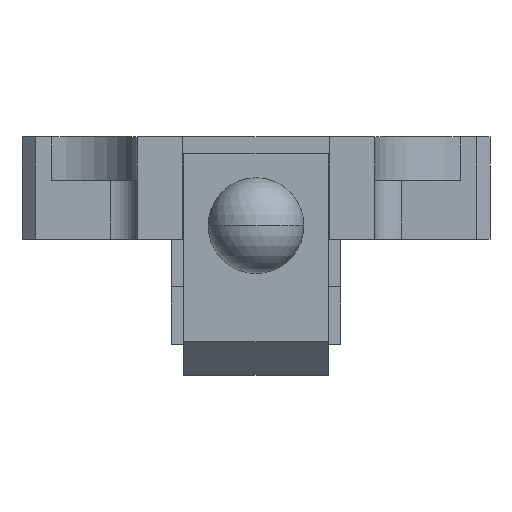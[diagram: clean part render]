
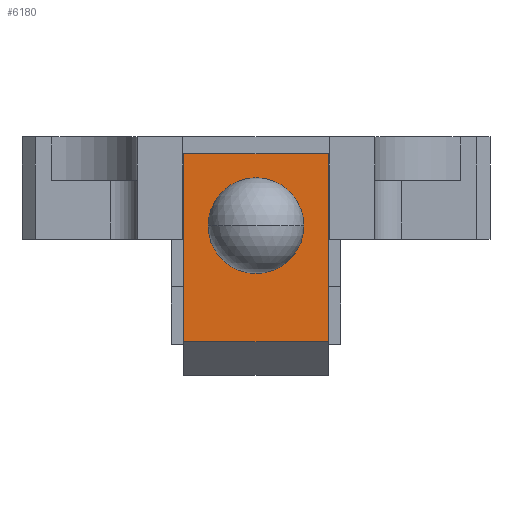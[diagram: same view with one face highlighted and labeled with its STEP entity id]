
A CAD part, front view. The second image highlights one B-rep face of the part: STEP entity #6180.
In plain terms, the highlighted planar face has unit normal (0, -1, 0).
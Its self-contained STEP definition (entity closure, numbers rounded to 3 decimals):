
#193 = PLANE ( 'NONE',  #4751 ) ;
#254 = CARTESIAN_POINT ( 'NONE',  ( -5.397, -29.591, -20.574 ) ) ;
#256 = CARTESIAN_POINT ( 'NONE',  ( -5.397, -29.591, -22.574 ) ) ;
#452 = DIRECTION ( 'NONE',  ( 0., 1., 0. ) ) ;
#501 = DIRECTION ( 'NONE',  ( -1., 0., 0. ) ) ;
#683 = DIRECTION ( 'NONE',  ( 0., 1., 0. ) ) ;
#881 = CARTESIAN_POINT ( 'NONE',  ( 5.397, -29.591, -22.574 ) ) ;
#940 = ORIENTED_EDGE ( 'NONE', *, *, #1016, .T. ) ;
#1002 = LINE ( 'NONE', #2486, #3875 ) ;
#1016 = EDGE_CURVE ( 'NONE', #1635, #6203, #2675, .T. ) ;
#1266 = VERTEX_POINT ( 'NONE', #6208 ) ;
#1377 = EDGE_LOOP ( 'NONE', ( #4204, #3764, #2650, #2340 ) ) ;
#1614 = FACE_BOUND ( 'NONE', #3635, .T. ) ;
#1635 = VERTEX_POINT ( 'NONE', #2344 ) ;
#1678 = VERTEX_POINT ( 'NONE', #5277 ) ;
#1716 = ORIENTED_EDGE ( 'NONE', *, *, #3452, .T. ) ;
#1829 = CARTESIAN_POINT ( 'NONE',  ( 0., -29.591, -27.94 ) ) ;
#1907 = AXIS2_PLACEMENT_3D ( 'NONE', #1829, #3748, #3282 ) ;
#2111 = EDGE_CURVE ( 'NONE', #4364, #2313, #1002, .T. ) ;
#2313 = VERTEX_POINT ( 'NONE', #5885 ) ;
#2340 = ORIENTED_EDGE ( 'NONE', *, *, #2111, .F. ) ;
#2344 = CARTESIAN_POINT ( 'NONE',  ( 0., -29.591, -25.545 ) ) ;
#2389 = VECTOR ( 'NONE', #4133, 1000. ) ;
#2402 = LINE ( 'NONE', #3852, #3216 ) ;
#2486 = CARTESIAN_POINT ( 'NONE',  ( 5.397, -29.591, -36.616 ) ) ;
#2642 = FACE_OUTER_BOUND ( 'NONE', #1377, .T. ) ;
#2650 = ORIENTED_EDGE ( 'NONE', *, *, #3705, .T. ) ;
#2675 = CIRCLE ( 'NONE', #6244, 2.396 ) ;
#2814 = DIRECTION ( 'NONE',  ( 0., 0., -1. ) ) ;
#2966 = DIRECTION ( 'NONE',  ( -1., 0., 0. ) ) ;
#3216 = VECTOR ( 'NONE', #501, 1000. ) ;
#3282 = DIRECTION ( 'NONE',  ( 0., 0., -1. ) ) ;
#3334 = CARTESIAN_POINT ( 'NONE',  ( 5.397, -29.591, -36.616 ) ) ;
#3362 = CARTESIAN_POINT ( 'NONE',  ( 0., -29.591, -27.94 ) ) ;
#3429 = DIRECTION ( 'NONE',  ( 0., 0., 1. ) ) ;
#3452 = EDGE_CURVE ( 'NONE', #6203, #1635, #4628, .T. ) ;
#3500 = CARTESIAN_POINT ( 'NONE',  ( 0., -29.591, -30.335 ) ) ;
#3535 = LINE ( 'NONE', #256, #2389 ) ;
#3635 = EDGE_LOOP ( 'NONE', ( #940, #1716 ) ) ;
#3705 = EDGE_CURVE ( 'NONE', #1678, #2313, #3535, .T. ) ;
#3748 = DIRECTION ( 'NONE',  ( 0., 1., 0. ) ) ;
#3764 = ORIENTED_EDGE ( 'NONE', *, *, #5919, .T. ) ;
#3852 = CARTESIAN_POINT ( 'NONE',  ( 5.397, -29.591, -22.574 ) ) ;
#3875 = VECTOR ( 'NONE', #2966, 1000. ) ;
#4133 = DIRECTION ( 'NONE',  ( 0., 0., -1. ) ) ;
#4204 = ORIENTED_EDGE ( 'NONE', *, *, #5895, .F. ) ;
#4364 = VERTEX_POINT ( 'NONE', #3334 ) ;
#4628 = CIRCLE ( 'NONE', #1907, 2.396 ) ;
#4751 = AXIS2_PLACEMENT_3D ( 'NONE', #254, #683, #6059 ) ;
#5231 = LINE ( 'NONE', #881, #5883 ) ;
#5277 = CARTESIAN_POINT ( 'NONE',  ( -5.397, -29.591, -22.574 ) ) ;
#5883 = VECTOR ( 'NONE', #2814, 1000. ) ;
#5885 = CARTESIAN_POINT ( 'NONE',  ( -5.397, -29.591, -36.616 ) ) ;
#5895 = EDGE_CURVE ( 'NONE', #1266, #4364, #5231, .T. ) ;
#5919 = EDGE_CURVE ( 'NONE', #1266, #1678, #2402, .T. ) ;
#6059 = DIRECTION ( 'NONE',  ( 1., 0., 0. ) ) ;
#6180 = ADVANCED_FACE ( 'NONE', ( #1614, #2642 ), #193, .F. ) ;
#6203 = VERTEX_POINT ( 'NONE', #3500 ) ;
#6208 = CARTESIAN_POINT ( 'NONE',  ( 5.397, -29.591, -22.574 ) ) ;
#6244 = AXIS2_PLACEMENT_3D ( 'NONE', #3362, #452, #3429 ) ;
